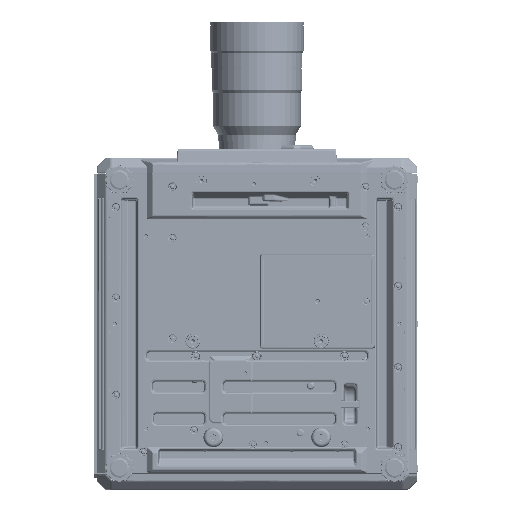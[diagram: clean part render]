
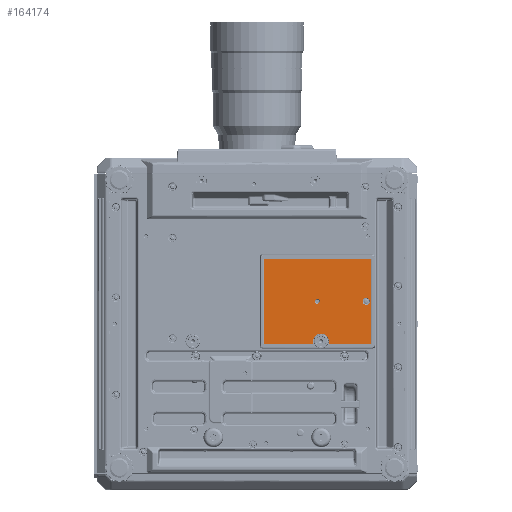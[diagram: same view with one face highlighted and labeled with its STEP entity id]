
A CAD part, front view. The second image highlights one B-rep face of the part: STEP entity #164174.
In plain terms, the highlighted planar face has unit normal (0, -1, 0).
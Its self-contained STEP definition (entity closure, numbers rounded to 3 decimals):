
#450=ELLIPSE('',#347887,1.504,1.5);
#451=ELLIPSE('',#347888,1.504,1.5);
#452=ELLIPSE('',#347890,1.504,1.5);
#453=ELLIPSE('',#347891,1.504,1.5);
#16861=B_SPLINE_CURVE_WITH_KNOTS('',3,(#477238,#477239,#477240,#477241,
#477242,#477243,#477244,#477245,#477246,#477247,#477248,#477249,#477250,
#477251,#477252,#477253,#477254,#477255,#477256),.UNSPECIFIED.,.F.,.F.,
(4,3,3,3,3,3,4),(0.,0.054,0.243,0.432,
0.621,0.811,1.),.UNSPECIFIED.);
#16862=B_SPLINE_CURVE_WITH_KNOTS('',3,(#477260,#477261,#477262,#477263,
#477264,#477265,#477266,#477267,#477268,#477269,#477270,#477271,#477272,
#477273,#477274,#477275,#477276,#477277,#477278),.UNSPECIFIED.,.F.,.F.,
(4,3,3,3,3,3,4),(0.,0.054,0.243,0.432,
0.621,0.811,1.),.UNSPECIFIED.);
#35735=LINE('',#477227,#62832);
#35736=LINE('',#477232,#62833);
#35737=LINE('',#477236,#62834);
#35738=LINE('',#477280,#62835);
#35739=LINE('',#477284,#62836);
#62832=VECTOR('',#380130,1.);
#62833=VECTOR('',#380133,1.);
#62834=VECTOR('',#380136,1.);
#62835=VECTOR('',#380139,1.);
#62836=VECTOR('',#380142,1.);
#88289=PLANE('',#347892);
#164174=ADVANCED_FACE('',(#174626,#174627,#174628),#88289,.F.);
#174626=FACE_BOUND('',#177846,.T.);
#174627=FACE_BOUND('',#177847,.T.);
#174628=FACE_BOUND('',#177848,.T.);
#177846=EDGE_LOOP('',(#197156));
#177847=EDGE_LOOP('',(#197157));
#177848=EDGE_LOOP('',(#197158,#197159,#197160,#197161,#197162,#197163,#197164,
#197165,#197166,#197167,#197168,#197169));
#197156=ORIENTED_EDGE('',*,*,#293082,.T.);
#197157=ORIENTED_EDGE('',*,*,#293083,.T.);
#197158=ORIENTED_EDGE('',*,*,#293084,.T.);
#197159=ORIENTED_EDGE('',*,*,#293085,.T.);
#197160=ORIENTED_EDGE('',*,*,#293086,.T.);
#197161=ORIENTED_EDGE('',*,*,#293087,.T.);
#197162=ORIENTED_EDGE('',*,*,#293088,.T.);
#197163=ORIENTED_EDGE('',*,*,#293089,.T.);
#197164=ORIENTED_EDGE('',*,*,#293090,.T.);
#197165=ORIENTED_EDGE('',*,*,#293091,.T.);
#197166=ORIENTED_EDGE('',*,*,#293092,.T.);
#197167=ORIENTED_EDGE('',*,*,#293093,.T.);
#197168=ORIENTED_EDGE('',*,*,#293094,.T.);
#197169=ORIENTED_EDGE('',*,*,#293095,.T.);
#253191=VERTEX_POINT('',#477223);
#253192=VERTEX_POINT('',#477226);
#253193=VERTEX_POINT('',#477228);
#253194=VERTEX_POINT('',#477229);
#253195=VERTEX_POINT('',#477231);
#253196=VERTEX_POINT('',#477233);
#253197=VERTEX_POINT('',#477235);
#253198=VERTEX_POINT('',#477237);
#253199=VERTEX_POINT('',#477257);
#253200=VERTEX_POINT('',#477259);
#253201=VERTEX_POINT('',#477279);
#253202=VERTEX_POINT('',#477281);
#253203=VERTEX_POINT('',#477283);
#253204=VERTEX_POINT('',#477285);
#293082=EDGE_CURVE('',#253191,#253191,#336692,.T.);
#293083=EDGE_CURVE('',#253192,#253192,#336693,.T.);
#293084=EDGE_CURVE('',#253193,#253194,#35735,.T.);
#293085=EDGE_CURVE('',#253194,#253195,#450,.T.);
#293086=EDGE_CURVE('',#253195,#253196,#35736,.T.);
#293087=EDGE_CURVE('',#253196,#253197,#451,.T.);
#293088=EDGE_CURVE('',#253197,#253198,#35737,.T.);
#293089=EDGE_CURVE('',#253198,#253199,#16861,.T.);
#293090=EDGE_CURVE('',#253199,#253200,#336694,.T.);
#293091=EDGE_CURVE('',#253200,#253201,#16862,.T.);
#293092=EDGE_CURVE('',#253201,#253202,#35738,.T.);
#293093=EDGE_CURVE('',#253202,#253203,#452,.T.);
#293094=EDGE_CURVE('',#253203,#253204,#35739,.T.);
#293095=EDGE_CURVE('',#253204,#253193,#453,.T.);
#336692=CIRCLE('',#347884,4.);
#336693=CIRCLE('',#347886,6.125);
#336694=CIRCLE('',#347889,13.358);
#347884=AXIS2_PLACEMENT_3D('',#477222,#380124,#380125);
#347886=AXIS2_PLACEMENT_3D('',#477225,#380128,#380129);
#347887=AXIS2_PLACEMENT_3D('',#477230,#380131,#380132);
#347888=AXIS2_PLACEMENT_3D('',#477234,#380134,#380135);
#347889=AXIS2_PLACEMENT_3D('',#477258,#380137,#380138);
#347890=AXIS2_PLACEMENT_3D('',#477282,#380140,#380141);
#347891=AXIS2_PLACEMENT_3D('',#477286,#380143,#380144);
#347892=AXIS2_PLACEMENT_3D('',#477287,#380145,#380146);
#380124=DIRECTION('',(0.,1.,0.));
#380125=DIRECTION('',(0.,0.,1.));
#380128=DIRECTION('',(0.,1.,0.));
#380129=DIRECTION('',(0.,0.,1.));
#380130=DIRECTION('',(-1.,0.,0.));
#380131=DIRECTION('',(0.,-1.,0.));
#380132=DIRECTION('',(0.707,0.,-0.707));
#380133=DIRECTION('',(0.,0.,-1.));
#380134=DIRECTION('',(0.,-1.,0.));
#380135=DIRECTION('',(-0.707,0.,-0.707));
#380136=DIRECTION('',(1.,0.,0.));
#380137=DIRECTION('',(0.,1.,0.));
#380138=DIRECTION('',(0.,0.,1.));
#380139=DIRECTION('',(1.,0.,0.));
#380140=DIRECTION('',(0.,-1.,0.));
#380141=DIRECTION('',(-0.707,0.,0.707));
#380142=DIRECTION('',(0.,0.,1.));
#380143=DIRECTION('',(0.,-1.,0.));
#380144=DIRECTION('',(-0.707,0.,-0.707));
#380145=DIRECTION('',(0.,1.,0.));
#380146=DIRECTION('',(0.,0.,1.));
#477222=CARTESIAN_POINT('',(103.8,-116.5,-1.5));
#477223=CARTESIAN_POINT('',(103.8,-116.5,2.5));
#477225=CARTESIAN_POINT('',(187.8,-116.5,-1.5));
#477226=CARTESIAN_POINT('',(187.8,-116.5,4.625));
#477227=CARTESIAN_POINT('',(110.,-116.5,71.642));
#477228=CARTESIAN_POINT('',(193.644,-116.5,71.642));
#477229=CARTESIAN_POINT('',(14.356,-116.5,71.642));
#477230=CARTESIAN_POINT('',(14.36,-116.5,70.14));
#477231=CARTESIAN_POINT('',(12.858,-116.5,70.144));
#477232=CARTESIAN_POINT('',(12.858,-116.5,-70.));
#477233=CARTESIAN_POINT('',(12.858,-116.5,-73.144));
#477234=CARTESIAN_POINT('',(14.36,-116.5,-73.14));
#477235=CARTESIAN_POINT('',(14.356,-116.5,-74.642));
#477236=CARTESIAN_POINT('',(110.,-116.5,-74.642));
#477237=CARTESIAN_POINT('',(95.481,-116.5,-74.642));
#477238=CARTESIAN_POINT('',(95.481,-116.5,-74.642));
#477239=CARTESIAN_POINT('',(95.529,-116.5,-74.642));
#477240=CARTESIAN_POINT('',(95.578,-116.5,-74.64));
#477241=CARTESIAN_POINT('',(95.627,-116.5,-74.635));
#477242=CARTESIAN_POINT('',(95.794,-116.5,-74.619));
#477243=CARTESIAN_POINT('',(95.96,-116.5,-74.574));
#477244=CARTESIAN_POINT('',(96.112,-116.5,-74.503));
#477245=CARTESIAN_POINT('',(96.264,-116.5,-74.433));
#477246=CARTESIAN_POINT('',(96.405,-116.5,-74.335));
#477247=CARTESIAN_POINT('',(96.525,-116.5,-74.219));
#477248=CARTESIAN_POINT('',(96.645,-116.5,-74.102));
#477249=CARTESIAN_POINT('',(96.747,-116.5,-73.963));
#477250=CARTESIAN_POINT('',(96.822,-116.5,-73.813));
#477251=CARTESIAN_POINT('',(96.897,-116.5,-73.662));
#477252=CARTESIAN_POINT('',(96.947,-116.5,-73.497));
#477253=CARTESIAN_POINT('',(96.967,-116.5,-73.33));
#477254=CARTESIAN_POINT('',(96.988,-116.5,-73.164));
#477255=CARTESIAN_POINT('',(96.98,-116.5,-72.991));
#477256=CARTESIAN_POINT('',(96.945,-116.5,-72.827));
#477257=CARTESIAN_POINT('',(96.945,-116.5,-72.827));
#477258=CARTESIAN_POINT('',(110.,-116.5,-70.));
#477259=CARTESIAN_POINT('',(123.055,-116.5,-72.827));
#477260=CARTESIAN_POINT('',(123.055,-116.5,-72.827));
#477261=CARTESIAN_POINT('',(123.045,-116.5,-72.875));
#477262=CARTESIAN_POINT('',(123.037,-116.5,-72.923));
#477263=CARTESIAN_POINT('',(123.031,-116.5,-72.972));
#477264=CARTESIAN_POINT('',(123.012,-116.5,-73.138));
#477265=CARTESIAN_POINT('',(123.021,-116.5,-73.31));
#477266=CARTESIAN_POINT('',(123.058,-116.5,-73.473));
#477267=CARTESIAN_POINT('',(123.094,-116.5,-73.637));
#477268=CARTESIAN_POINT('',(123.159,-116.5,-73.796));
#477269=CARTESIAN_POINT('',(123.248,-116.5,-73.938));
#477270=CARTESIAN_POINT('',(123.337,-116.5,-74.08));
#477271=CARTESIAN_POINT('',(123.451,-116.5,-74.209));
#477272=CARTESIAN_POINT('',(123.582,-116.5,-74.313));
#477273=CARTESIAN_POINT('',(123.713,-116.5,-74.418));
#477274=CARTESIAN_POINT('',(123.864,-116.5,-74.502));
#477275=CARTESIAN_POINT('',(124.023,-116.5,-74.558));
#477276=CARTESIAN_POINT('',(124.181,-116.5,-74.613));
#477277=CARTESIAN_POINT('',(124.351,-116.5,-74.642));
#477278=CARTESIAN_POINT('',(124.519,-116.5,-74.642));
#477279=CARTESIAN_POINT('',(124.519,-116.5,-74.642));
#477280=CARTESIAN_POINT('',(110.,-116.5,-74.642));
#477281=CARTESIAN_POINT('',(193.644,-116.5,-74.642));
#477282=CARTESIAN_POINT('',(193.64,-116.5,-73.14));
#477283=CARTESIAN_POINT('',(195.142,-116.5,-73.144));
#477284=CARTESIAN_POINT('',(195.142,-116.5,-70.));
#477285=CARTESIAN_POINT('',(195.142,-116.5,70.144));
#477286=CARTESIAN_POINT('',(193.64,-116.5,70.14));
#477287=CARTESIAN_POINT('',(110.,-116.5,-70.));
